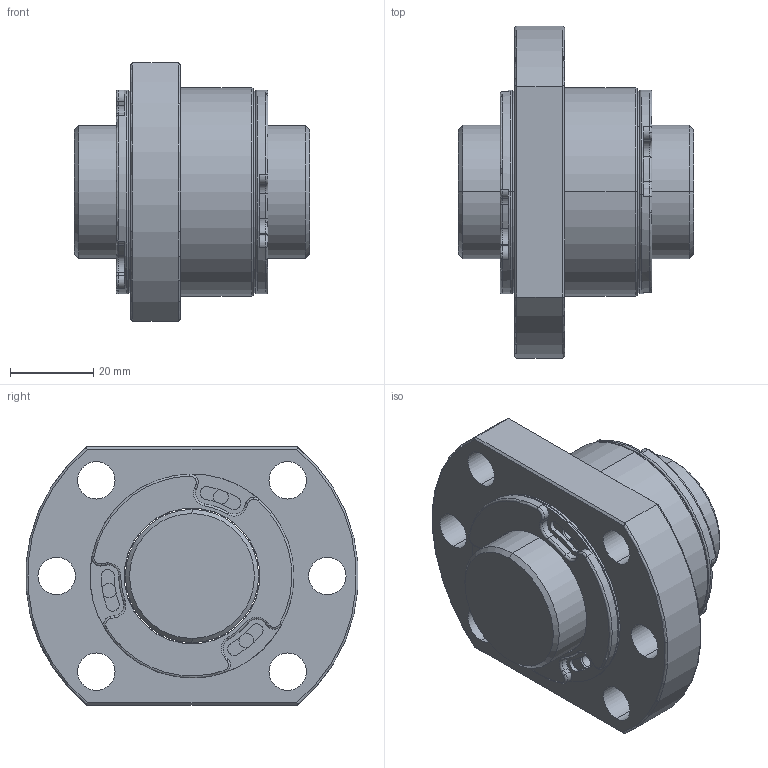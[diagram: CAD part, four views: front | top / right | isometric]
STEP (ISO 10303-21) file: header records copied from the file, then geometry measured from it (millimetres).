
FILE_DESCRIPTION (( 'STEP AP203' ), '1' );
FILE_NAME ('SFHR03205C1D-C.STEP', '2020-06-17T08:04:07', ( '' ), ( '' ), 'SwSTEP 2.0', 'SolidWorks 2013', '' );
FILE_SCHEMA (( 'CONFIG_CONTROL_DESIGN' ));
Length unit declared in the file: millimetre
Products named in the file (1): SFHR03205C1D-C
Bounding box: 56.5 x 79.74 x 62 mm (x, y, z)
Volume: 107500.2 mm3; surface area: 34330 mm2
Topology: 6 solids, 6 shells, 248 faces, 614 edges, 386 vertices
Faces by surface type: cylinder 144, torus 56, plane 44, cone 4
Entity records: 8521 total; most frequent: CARTESIAN_POINT 2265, DIRECTION 1412, ORIENTED_EDGE 1228, EDGE_CURVE 614, AXIS2_PLACEMENT_3D 605, VERTEX_POINT 386, CIRCLE 356, EDGE_LOOP 304
